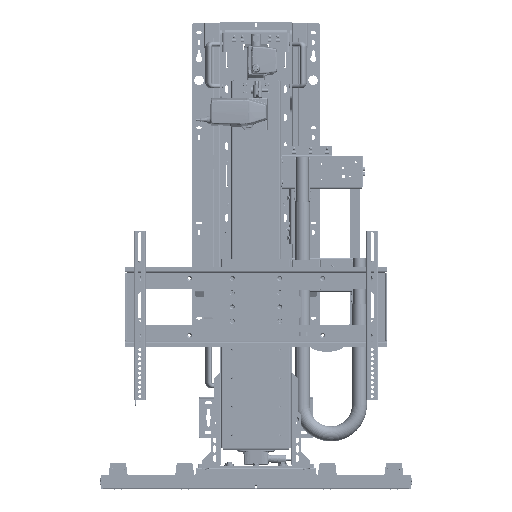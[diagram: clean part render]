
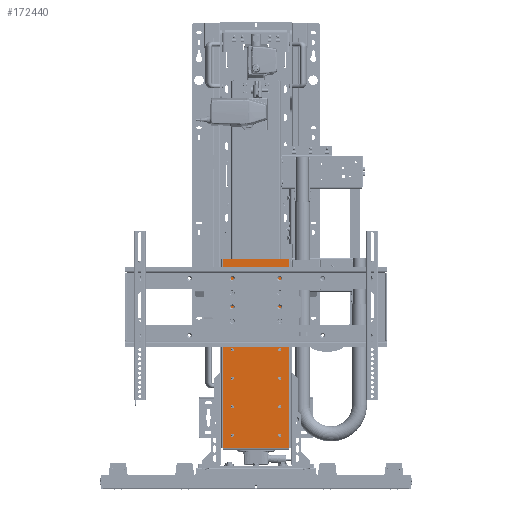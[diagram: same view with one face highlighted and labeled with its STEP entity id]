
A CAD part, front view. The second image highlights one B-rep face of the part: STEP entity #172440.
In plain terms, the highlighted planar face has unit normal (0, -1, 0) as drawn and (0, 0, 1) by its records, which use the part's own axes.
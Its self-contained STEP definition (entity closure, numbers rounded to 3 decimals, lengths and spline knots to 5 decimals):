
#15866=CIRCLE('',#190169,0.00437);
#15868=CIRCLE('',#190172,0.00437);
#15870=CIRCLE('',#190175,0.00437);
#15872=CIRCLE('',#190178,0.00437);
#15874=CIRCLE('',#190181,0.00437);
#15876=CIRCLE('',#190184,0.00437);
#15878=CIRCLE('',#190187,0.00437);
#15880=CIRCLE('',#190190,0.00437);
#15882=CIRCLE('',#190193,0.00437);
#15884=CIRCLE('',#190196,0.00437);
#15886=CIRCLE('',#190199,0.00437);
#15888=CIRCLE('',#190202,0.00437);
#54463=ORIENTED_EDGE('',*,*,#84062,.T.);
#54464=ORIENTED_EDGE('',*,*,#84034,.T.);
#54465=ORIENTED_EDGE('',*,*,#84063,.F.);
#54466=ORIENTED_EDGE('',*,*,#84058,.T.);
#54467=ORIENTED_EDGE('',*,*,#84004,.F.);
#54468=ORIENTED_EDGE('',*,*,#84002,.F.);
#54469=ORIENTED_EDGE('',*,*,#84000,.F.);
#54470=ORIENTED_EDGE('',*,*,#83998,.F.);
#54471=ORIENTED_EDGE('',*,*,#83996,.F.);
#54472=ORIENTED_EDGE('',*,*,#83994,.F.);
#54473=ORIENTED_EDGE('',*,*,#83992,.F.);
#54474=ORIENTED_EDGE('',*,*,#83990,.F.);
#54475=ORIENTED_EDGE('',*,*,#83988,.F.);
#54476=ORIENTED_EDGE('',*,*,#83986,.F.);
#54477=ORIENTED_EDGE('',*,*,#83984,.F.);
#54478=ORIENTED_EDGE('',*,*,#83982,.F.);
#83982=EDGE_CURVE('',#101637,#101637,#15866,.T.);
#83984=EDGE_CURVE('',#101639,#101639,#15868,.T.);
#83986=EDGE_CURVE('',#101641,#101641,#15870,.T.);
#83988=EDGE_CURVE('',#101643,#101643,#15872,.T.);
#83990=EDGE_CURVE('',#101645,#101645,#15874,.T.);
#83992=EDGE_CURVE('',#101647,#101647,#15876,.T.);
#83994=EDGE_CURVE('',#101649,#101649,#15878,.T.);
#83996=EDGE_CURVE('',#101651,#101651,#15880,.T.);
#83998=EDGE_CURVE('',#101653,#101653,#15882,.T.);
#84000=EDGE_CURVE('',#101655,#101655,#15884,.T.);
#84002=EDGE_CURVE('',#101657,#101657,#15886,.T.);
#84004=EDGE_CURVE('',#101659,#101659,#15888,.T.);
#84034=EDGE_CURVE('',#101681,#101682,#116661,.T.);
#84058=EDGE_CURVE('',#101694,#101693,#116677,.T.);
#84062=EDGE_CURVE('',#101693,#101681,#116680,.T.);
#84063=EDGE_CURVE('',#101694,#101682,#116681,.T.);
#101637=VERTEX_POINT('',#339438);
#101639=VERTEX_POINT('',#339443);
#101641=VERTEX_POINT('',#339448);
#101643=VERTEX_POINT('',#339453);
#101645=VERTEX_POINT('',#339458);
#101647=VERTEX_POINT('',#339463);
#101649=VERTEX_POINT('',#339468);
#101651=VERTEX_POINT('',#339473);
#101653=VERTEX_POINT('',#339478);
#101655=VERTEX_POINT('',#339483);
#101657=VERTEX_POINT('',#339488);
#101659=VERTEX_POINT('',#339493);
#101681=VERTEX_POINT('',#339555);
#101682=VERTEX_POINT('',#339556);
#101693=VERTEX_POINT('',#339597);
#101694=VERTEX_POINT('',#339599);
#116661=LINE('',#339554,#131156);
#116677=LINE('',#339598,#131172);
#116680=LINE('',#339606,#131175);
#116681=LINE('',#339607,#131176);
#131156=VECTOR('',#231710,1.);
#131172=VECTOR('',#231756,1.);
#131175=VECTOR('',#231765,1.);
#131176=VECTOR('',#231766,1.);
#143628=EDGE_LOOP('',(#54463,#54464,#54465,#54466));
#143629=EDGE_LOOP('',(#54467));
#143630=EDGE_LOOP('',(#54468));
#143631=EDGE_LOOP('',(#54469));
#143632=EDGE_LOOP('',(#54470));
#143633=EDGE_LOOP('',(#54471));
#143634=EDGE_LOOP('',(#54472));
#143635=EDGE_LOOP('',(#54473));
#143636=EDGE_LOOP('',(#54474));
#143637=EDGE_LOOP('',(#54475));
#143638=EDGE_LOOP('',(#54476));
#143639=EDGE_LOOP('',(#54477));
#143640=EDGE_LOOP('',(#54478));
#156449=FACE_BOUND('',#143628,.T.);
#156450=FACE_BOUND('',#143629,.T.);
#156451=FACE_BOUND('',#143630,.T.);
#156452=FACE_BOUND('',#143631,.T.);
#156453=FACE_BOUND('',#143632,.T.);
#156454=FACE_BOUND('',#143633,.T.);
#156455=FACE_BOUND('',#143634,.T.);
#156456=FACE_BOUND('',#143635,.T.);
#156457=FACE_BOUND('',#143636,.T.);
#156458=FACE_BOUND('',#143637,.T.);
#156459=FACE_BOUND('',#143638,.T.);
#156460=FACE_BOUND('',#143639,.T.);
#156461=FACE_BOUND('',#143640,.T.);
#163944=PLANE('',#190241);
#172440=ADVANCED_FACE('',(#156449,#156450,#156451,#156452,#156453,#156454,
#156455,#156456,#156457,#156458,#156459,#156460,#156461),#163944,.T.);
#190169=AXIS2_PLACEMENT_3D('',#339437,#231582,#231583);
#190172=AXIS2_PLACEMENT_3D('',#339442,#231588,#231589);
#190175=AXIS2_PLACEMENT_3D('',#339447,#231594,#231595);
#190178=AXIS2_PLACEMENT_3D('',#339452,#231600,#231601);
#190181=AXIS2_PLACEMENT_3D('',#339457,#231606,#231607);
#190184=AXIS2_PLACEMENT_3D('',#339462,#231612,#231613);
#190187=AXIS2_PLACEMENT_3D('',#339467,#231618,#231619);
#190190=AXIS2_PLACEMENT_3D('',#339472,#231624,#231625);
#190193=AXIS2_PLACEMENT_3D('',#339477,#231630,#231631);
#190196=AXIS2_PLACEMENT_3D('',#339482,#231636,#231637);
#190199=AXIS2_PLACEMENT_3D('',#339487,#231642,#231643);
#190202=AXIS2_PLACEMENT_3D('',#339492,#231648,#231649);
#190241=AXIS2_PLACEMENT_3D('',#339605,#231763,#231764);
#231582=DIRECTION('',(0.,0.,1.));
#231583=DIRECTION('',(1.,0.,0.));
#231588=DIRECTION('',(0.,0.,1.));
#231589=DIRECTION('',(1.,0.,0.));
#231594=DIRECTION('',(0.,0.,1.));
#231595=DIRECTION('',(1.,0.,0.));
#231600=DIRECTION('',(0.,0.,1.));
#231601=DIRECTION('',(1.,0.,0.));
#231606=DIRECTION('',(0.,0.,1.));
#231607=DIRECTION('',(1.,0.,0.));
#231612=DIRECTION('',(0.,0.,1.));
#231613=DIRECTION('',(1.,0.,0.));
#231618=DIRECTION('',(0.,0.,1.));
#231619=DIRECTION('',(1.,0.,0.));
#231624=DIRECTION('',(0.,0.,1.));
#231625=DIRECTION('',(1.,0.,0.));
#231630=DIRECTION('',(0.,0.,1.));
#231631=DIRECTION('',(1.,0.,0.));
#231636=DIRECTION('',(0.,0.,1.));
#231637=DIRECTION('',(1.,0.,0.));
#231642=DIRECTION('',(0.,0.,1.));
#231643=DIRECTION('',(1.,0.,0.));
#231648=DIRECTION('',(0.,0.,1.));
#231649=DIRECTION('',(1.,0.,0.));
#231710=DIRECTION('',(-1.,0.,0.));
#231756=DIRECTION('',(1.,0.,0.));
#231763=DIRECTION('',(0.,0.,1.));
#231764=DIRECTION('',(1.,0.,0.));
#231765=DIRECTION('',(0.,1.,0.));
#231766=DIRECTION('',(0.,1.,0.));
#339437=CARTESIAN_POINT('',(-0.0635,-0.2667,0.127));
#339438=CARTESIAN_POINT('',(-0.05913,-0.2667,0.127));
#339442=CARTESIAN_POINT('',(0.0635,-0.3429,0.127));
#339443=CARTESIAN_POINT('',(0.06787,-0.3429,0.127));
#339447=CARTESIAN_POINT('',(-0.0635,-0.3429,0.127));
#339448=CARTESIAN_POINT('',(-0.05913,-0.3429,0.127));
#339452=CARTESIAN_POINT('',(0.0635,-0.4191,0.127));
#339453=CARTESIAN_POINT('',(0.06787,-0.4191,0.127));
#339457=CARTESIAN_POINT('',(-0.0635,-0.1143,0.127));
#339458=CARTESIAN_POINT('',(-0.05913,-0.1143,0.127));
#339462=CARTESIAN_POINT('',(0.0635,-0.1905,0.127));
#339463=CARTESIAN_POINT('',(0.06787,-0.1905,0.127));
#339467=CARTESIAN_POINT('',(-0.0635,-0.1905,0.127));
#339468=CARTESIAN_POINT('',(-0.05913,-0.1905,0.127));
#339472=CARTESIAN_POINT('',(0.0635,-0.2667,0.127));
#339473=CARTESIAN_POINT('',(0.06787,-0.2667,0.127));
#339477=CARTESIAN_POINT('',(-0.0635,-0.4191,0.127));
#339478=CARTESIAN_POINT('',(-0.05913,-0.4191,0.127));
#339482=CARTESIAN_POINT('',(0.0635,-0.1143,0.127));
#339483=CARTESIAN_POINT('',(0.06787,-0.1143,0.127));
#339487=CARTESIAN_POINT('',(0.0635,-0.0381,0.127));
#339488=CARTESIAN_POINT('',(0.06787,-0.0381,0.127));
#339492=CARTESIAN_POINT('',(-0.0635,-0.0381,0.127));
#339493=CARTESIAN_POINT('',(-0.05913,-0.0381,0.127));
#339554=CARTESIAN_POINT('',(0.089,-0.00397,0.127));
#339555=CARTESIAN_POINT('',(0.089,-0.00397,0.127));
#339556=CARTESIAN_POINT('',(-0.089,-0.00397,0.127));
#339597=CARTESIAN_POINT('',(0.089,-0.508,0.127));
#339598=CARTESIAN_POINT('',(-0.09296,-0.508,0.127));
#339599=CARTESIAN_POINT('',(-0.089,-0.508,0.127));
#339605=CARTESIAN_POINT('',(-0.09296,-0.508,0.127));
#339606=CARTESIAN_POINT('',(0.089,-0.508,0.127));
#339607=CARTESIAN_POINT('',(-0.089,-0.508,0.127));
